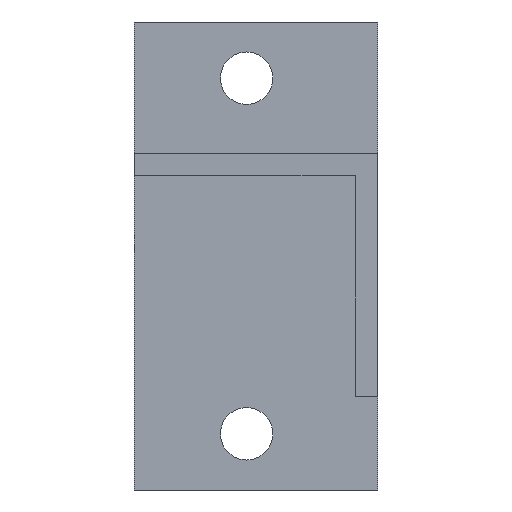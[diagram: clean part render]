
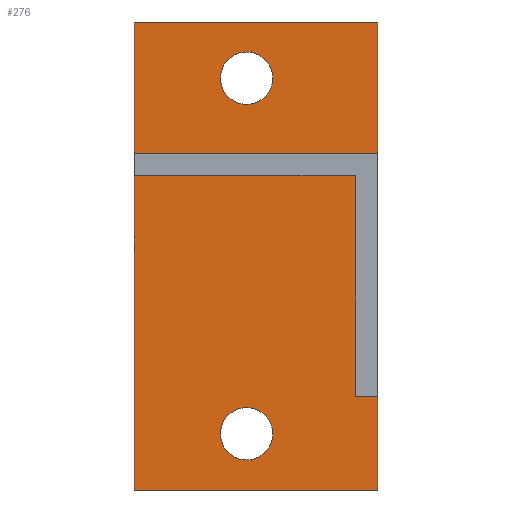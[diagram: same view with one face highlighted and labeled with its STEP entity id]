
A CAD part, front view. The second image highlights one B-rep face of the part: STEP entity #276.
In plain terms, the highlighted planar face has unit normal (0, -1, 0).
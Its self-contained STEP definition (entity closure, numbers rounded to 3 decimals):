
#19=FACE_BOUND('',#57,.T.);
#20=FACE_BOUND('',#58,.T.);
#22=PLANE('',#311);
#38=FACE_OUTER_BOUND('',#56,.T.);
#56=EDGE_LOOP('',(#213,#214,#215,#216));
#57=EDGE_LOOP('',(#217));
#58=EDGE_LOOP('',(#218));
#77=LINE('',#423,#109);
#78=LINE('',#425,#110);
#79=LINE('',#427,#111);
#80=LINE('',#428,#112);
#109=VECTOR('',#348,10.);
#110=VECTOR('',#349,10.);
#111=VECTOR('',#350,10.);
#112=VECTOR('',#351,10.);
#135=CIRCLE('',#305,7.);
#137=CIRCLE('',#308,7.);
#139=VERTEX_POINT('',#400);
#141=VERTEX_POINT('',#406);
#147=VERTEX_POINT('',#421);
#148=VERTEX_POINT('',#422);
#149=VERTEX_POINT('',#424);
#150=VERTEX_POINT('',#426);
#163=EDGE_CURVE('',#139,#139,#135,.T.);
#166=EDGE_CURVE('',#141,#141,#137,.T.);
#173=EDGE_CURVE('',#147,#148,#77,.T.);
#174=EDGE_CURVE('',#148,#149,#78,.T.);
#175=EDGE_CURVE('',#149,#150,#79,.T.);
#176=EDGE_CURVE('',#150,#147,#80,.T.);
#213=ORIENTED_EDGE('',*,*,#173,.T.);
#214=ORIENTED_EDGE('',*,*,#174,.T.);
#215=ORIENTED_EDGE('',*,*,#175,.T.);
#216=ORIENTED_EDGE('',*,*,#176,.T.);
#217=ORIENTED_EDGE('',*,*,#163,.T.);
#218=ORIENTED_EDGE('',*,*,#166,.T.);
#276=ADVANCED_FACE('',(#38,#19,#20),#22,.F.);
#305=AXIS2_PLACEMENT_3D('',#401,#328,#329);
#308=AXIS2_PLACEMENT_3D('',#407,#335,#336);
#311=AXIS2_PLACEMENT_3D('',#420,#346,#347);
#328=DIRECTION('center_axis',(0.,1.,0.));
#329=DIRECTION('ref_axis',(1.,0.,0.));
#335=DIRECTION('center_axis',(0.,1.,0.));
#336=DIRECTION('ref_axis',(1.,0.,0.));
#346=DIRECTION('center_axis',(0.,1.,0.));
#347=DIRECTION('ref_axis',(0.,0.,-1.));
#348=DIRECTION('',(1.,0.,0.));
#349=DIRECTION('',(0.,0.,1.));
#350=DIRECTION('',(-1.,0.,0.));
#351=DIRECTION('',(0.,0.,-1.));
#400=CARTESIAN_POINT('',(23.,0.,-15.));
#401=CARTESIAN_POINT('Origin',(30.,0.,-15.));
#406=CARTESIAN_POINT('',(23.,0.,-110.));
#407=CARTESIAN_POINT('Origin',(30.,0.,-110.));
#420=CARTESIAN_POINT('Origin',(32.5,0.,-62.5));
#421=CARTESIAN_POINT('',(0.,0.,-125.));
#422=CARTESIAN_POINT('',(65.,0.,-125.));
#423=CARTESIAN_POINT('',(32.5,0.,-125.));
#424=CARTESIAN_POINT('',(65.,0.,0.));
#425=CARTESIAN_POINT('',(65.,0.,-62.5));
#426=CARTESIAN_POINT('',(0.,0.,0.));
#427=CARTESIAN_POINT('',(32.5,0.,0.));
#428=CARTESIAN_POINT('',(0.,0.,-62.5));
